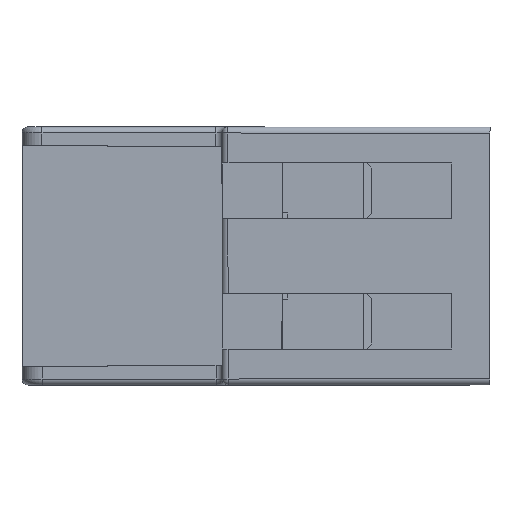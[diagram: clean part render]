
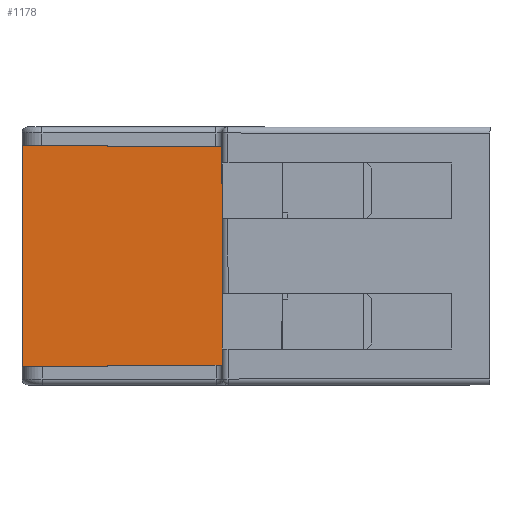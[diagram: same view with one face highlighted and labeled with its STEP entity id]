
A CAD part, left-side view. The second image highlights one B-rep face of the part: STEP entity #1178.
In plain terms, the highlighted planar face has unit normal (-1, 0.009, 0).
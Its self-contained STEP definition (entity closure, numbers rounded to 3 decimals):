
#1178=ADVANCED_FACE('',(#4028),#2619,.T.);
#2619=PLANE('',#29288);
#4028=FACE_OUTER_BOUND('',#5560,.T.);
#5560=EDGE_LOOP('',(#9901,#9902,#9903,#9904,#9905,#9906,#9907,#9908));
#9901=ORIENTED_EDGE('',*,*,#18580,.T.);
#9902=ORIENTED_EDGE('',*,*,#18987,.T.);
#9903=ORIENTED_EDGE('',*,*,#18575,.T.);
#9904=ORIENTED_EDGE('',*,*,#18988,.T.);
#9905=ORIENTED_EDGE('',*,*,#18594,.T.);
#9906=ORIENTED_EDGE('',*,*,#18989,.T.);
#9907=ORIENTED_EDGE('',*,*,#18682,.T.);
#9908=ORIENTED_EDGE('',*,*,#18990,.T.);
#15543=VERTEX_POINT('',#40418);
#15545=VERTEX_POINT('',#40421);
#15549=VERTEX_POINT('',#40429);
#15550=VERTEX_POINT('',#40431);
#15561=VERTEX_POINT('',#40455);
#15562=VERTEX_POINT('',#40457);
#15628=VERTEX_POINT('',#40620);
#15629=VERTEX_POINT('',#40622);
#18575=EDGE_CURVE('',#15545,#15543,#22448,.T.);
#18580=EDGE_CURVE('',#15550,#15549,#22453,.T.);
#18594=EDGE_CURVE('',#15562,#15561,#22467,.T.);
#18682=EDGE_CURVE('',#15629,#15628,#22555,.T.);
#18987=EDGE_CURVE('',#15549,#15545,#22860,.T.);
#18988=EDGE_CURVE('',#15543,#15562,#22861,.T.);
#18989=EDGE_CURVE('',#15561,#15629,#22862,.T.);
#18990=EDGE_CURVE('',#15628,#15550,#22863,.T.);
#22448=LINE('',#40420,#26229);
#22453=LINE('',#40430,#26234);
#22467=LINE('',#40456,#26248);
#22555=LINE('',#40621,#26336);
#22860=LINE('',#41225,#26641);
#22861=LINE('',#41226,#26642);
#22862=LINE('',#41227,#26643);
#22863=LINE('',#41228,#26644);
#26229=VECTOR('',#32746,1.);
#26234=VECTOR('',#32751,1.);
#26248=VECTOR('',#32765,1.);
#26336=VECTOR('',#32873,1.);
#26641=VECTOR('',#33418,1.);
#26642=VECTOR('',#33419,1.);
#26643=VECTOR('',#33420,1.);
#26644=VECTOR('',#33421,1.);
#29288=AXIS2_PLACEMENT_3D('',#41229,#33422,#33423);
#32746=DIRECTION('',(0.,0.,1.));
#32751=DIRECTION('',(0.,0.,1.));
#32765=DIRECTION('',(0.,0.,1.));
#32873=DIRECTION('',(0.,0.,-1.));
#33418=DIRECTION('',(0.,0.,1.));
#33419=DIRECTION('',(0.,0.,1.));
#33420=DIRECTION('',(0.009,1.,0.009));
#33421=DIRECTION('',(-0.009,-1.,0.009));
#33422=DIRECTION('',(-1.,0.009,0.));
#33423=DIRECTION('',(-0.009,-1.,0.));
#40418=CARTESIAN_POINT('',(23.3,7.6,41.7));
#40420=CARTESIAN_POINT('',(23.3,7.6,34.25));
#40421=CARTESIAN_POINT('',(23.3,7.6,36.199));
#40429=CARTESIAN_POINT('',(23.3,7.6,34.7));
#40430=CARTESIAN_POINT('',(23.3,7.6,34.25));
#40431=CARTESIAN_POINT('',(23.3,7.6,34.25));
#40455=CARTESIAN_POINT('',(23.3,7.6,45.15));
#40456=CARTESIAN_POINT('',(23.3,7.6,34.25));
#40457=CARTESIAN_POINT('',(23.3,7.6,43.2));
#40620=CARTESIAN_POINT('',(23.387,17.6,34.163));
#40621=CARTESIAN_POINT('',(23.387,17.6,39.75));
#40622=CARTESIAN_POINT('',(23.387,17.6,45.237));
#41225=CARTESIAN_POINT('',(23.3,7.6,34.25));
#41226=CARTESIAN_POINT('',(23.3,7.6,34.25));
#41227=CARTESIAN_POINT('',(23.3,7.6,45.15));
#41228=CARTESIAN_POINT('',(23.3,7.6,34.25));
#41229=CARTESIAN_POINT('',(23.3,7.6,34.25));
